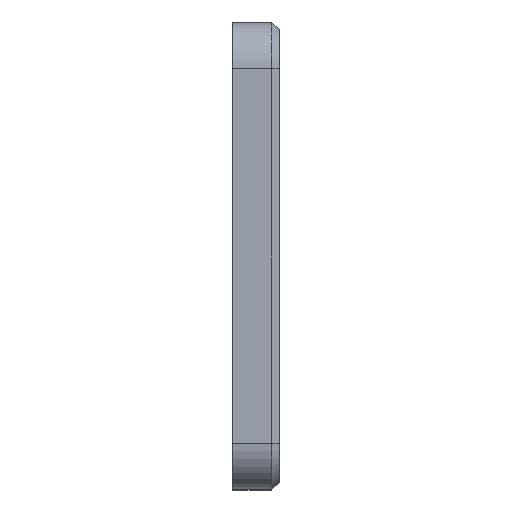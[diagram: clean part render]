
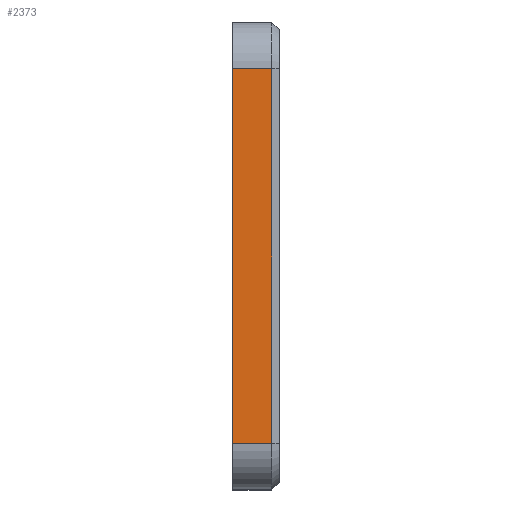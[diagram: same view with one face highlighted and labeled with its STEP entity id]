
A CAD part, left-side view. The second image highlights one B-rep face of the part: STEP entity #2373.
In plain terms, the highlighted planar face has unit normal (-1, 0, 0).
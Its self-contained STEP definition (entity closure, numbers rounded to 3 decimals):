
#61 = EDGE_CURVE ( 'NONE', #254, #2214, #966, .T. ) ;
#65 = ORIENTED_EDGE ( 'NONE', *, *, #61, .F. ) ;
#71 = LINE ( 'NONE', #2448, #1280 ) ;
#128 = VERTEX_POINT ( 'NONE', #544 ) ;
#254 = VERTEX_POINT ( 'NONE', #645 ) ;
#291 = CARTESIAN_POINT ( 'NONE',  ( -53., 3., 15. ) ) ;
#408 = VECTOR ( 'NONE', #696, 1000. ) ;
#420 = ORIENTED_EDGE ( 'NONE', *, *, #1798, .T. ) ;
#422 = CARTESIAN_POINT ( 'NONE',  ( -53., 3., 12. ) ) ;
#500 = VERTEX_POINT ( 'NONE', #755 ) ;
#544 = CARTESIAN_POINT ( 'NONE',  ( -53., 0.5, -12. ) ) ;
#645 = CARTESIAN_POINT ( 'NONE',  ( -53., 3., -12. ) ) ;
#696 = DIRECTION ( 'NONE',  ( 0., 1., 0. ) ) ;
#722 = CARTESIAN_POINT ( 'NONE',  ( -53., 3., 12. ) ) ;
#755 = CARTESIAN_POINT ( 'NONE',  ( -53., 0.5, 12. ) ) ;
#841 = DIRECTION ( 'NONE',  ( 0., 0., 1. ) ) ;
#966 = LINE ( 'NONE', #1172, #2887 ) ;
#1014 = DIRECTION ( 'NONE',  ( 0., 0., -1. ) ) ;
#1026 = DIRECTION ( 'NONE',  ( 0., -1., 0. ) ) ;
#1172 = CARTESIAN_POINT ( 'NONE',  ( -53., 3., 15. ) ) ;
#1227 = VECTOR ( 'NONE', #841, 1000. ) ;
#1259 = DIRECTION ( 'NONE',  ( 1., 0., 0. ) ) ;
#1280 = VECTOR ( 'NONE', #1026, 1000. ) ;
#1568 = CARTESIAN_POINT ( 'NONE',  ( -53., 0.5, 15. ) ) ;
#1574 = ORIENTED_EDGE ( 'NONE', *, *, #1657, .T. ) ;
#1657 = EDGE_CURVE ( 'NONE', #500, #2214, #3145, .T. ) ;
#1695 = DIRECTION ( 'NONE',  ( 0., 0., 1. ) ) ;
#1798 = EDGE_CURVE ( 'NONE', #254, #128, #71, .T. ) ;
#1965 = FACE_OUTER_BOUND ( 'NONE', #2786, .T. ) ;
#2051 = ORIENTED_EDGE ( 'NONE', *, *, #2592, .T. ) ;
#2214 = VERTEX_POINT ( 'NONE', #722 ) ;
#2373 = ADVANCED_FACE ( 'NONE', ( #1965 ), #2943, .F. ) ;
#2394 = AXIS2_PLACEMENT_3D ( 'NONE', #291, #1259, #1014 ) ;
#2448 = CARTESIAN_POINT ( 'NONE',  ( -53., 3., -12. ) ) ;
#2543 = LINE ( 'NONE', #1568, #1227 ) ;
#2592 = EDGE_CURVE ( 'NONE', #128, #500, #2543, .T. ) ;
#2786 = EDGE_LOOP ( 'NONE', ( #420, #2051, #1574, #65 ) ) ;
#2887 = VECTOR ( 'NONE', #1695, 1000. ) ;
#2943 = PLANE ( 'NONE',  #2394 ) ;
#3145 = LINE ( 'NONE', #422, #408 ) ;
